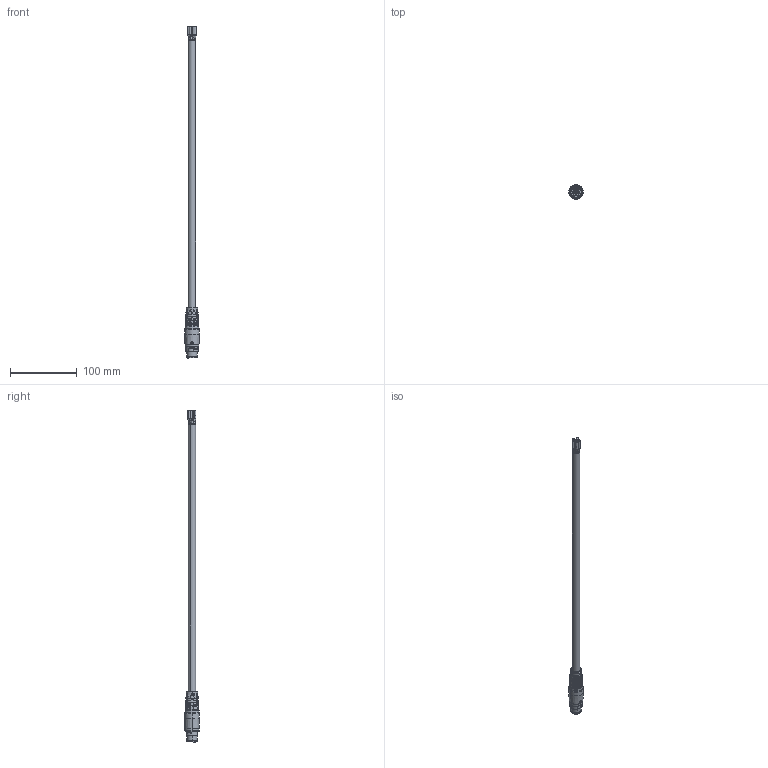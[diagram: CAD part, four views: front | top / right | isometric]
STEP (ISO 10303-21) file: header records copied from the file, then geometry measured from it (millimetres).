
FILE_DESCRIPTION (( 'STEP AP214' ), '1' );
FILE_NAME ('W-TEC 15K STI-GLATT 6x1,5_2,5.STEP', '2021-06-17T13:55:41', ( '' ), ( '' ), 'SwSTEP 2.0', 'SolidWorks 2021', '' );
FILE_SCHEMA (( 'AUTOMOTIVE_DESIGN' ));
Length unit declared in the file: millimetre
Products named in the file (1): W-TEC 15K STI-GLATT 6x1,5_2,5
Bounding box: 21.72 x 21.83 x 497.47 mm (x, y, z)
Surface area: 22380.1 mm2 (no closed solid volume)
Topology: 0 solids, 10 shells, 869 faces, 2452 edges, 1539 vertices
Faces by surface type: bspline 296, plane 231, cylinder 226, torus 80, cone 32, sphere 4
Entity records: 50069 total; most frequent: CARTESIAN_POINT 20909, ORIENTED_EDGE 4672, DIRECTION 3355, EDGE_CURVE 2364, VERTEX_POINT 1539, AXIS2_PLACEMENT_3D 1348, EDGE_LOOP 912, UNCERTAINTY_MEASURE_WITH_UNIT 871
